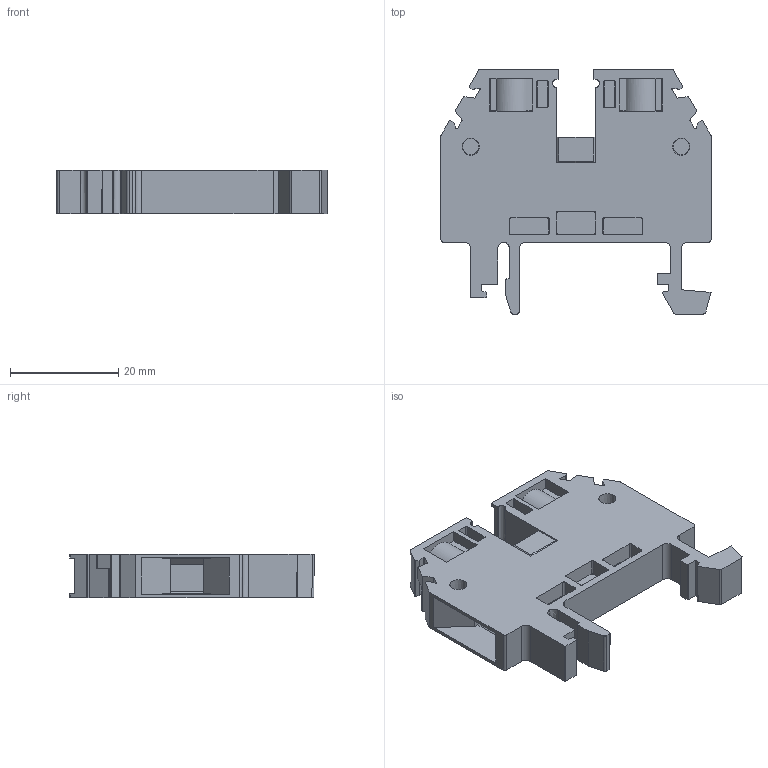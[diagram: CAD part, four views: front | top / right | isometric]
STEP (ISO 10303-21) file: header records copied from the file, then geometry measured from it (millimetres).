
FILE_DESCRIPTION(/* description */ ('Unknown'),/* implementation_level */ '2;1');
FILE_NAME(/* name */ 'RSA 6A',/* time_stamp */ '2021-03-04T10:34:07+01:00',/* author */ ('Unknown'),/* organization */ ('Unknown'),/* preprocessor_version */ 'ST-DEVELOPER v16.7',/* originating_system */ 'Solid Edge',/* authorisation */ 'Unknown');
FILE_SCHEMA (('AUTOMOTIVE_DESIGN {1 0 10303 214 3 1 1}'));
Length unit declared in the file: millimetre
Products named in the file (1): RSA 6A
Bounding box: 50 x 45.2 x 8 mm (x, y, z)
Volume: 9542.9 mm3; surface area: 7172.2 mm2
Topology: 1 solids, 1 shells, 406 faces, 1111 edges, 736 vertices
Faces by surface type: plane 243, cylinder 142, cone 14, torus 6, bspline 1
Full cylindrical faces by diameter (mm): 2.85 x1, 3.5 x2, 3.8 x2, 5.5 x2
Entity records: 15631 total; most frequent: CARTESIAN_POINT 2474, ORIENTED_EDGE 2152, DIRECTION 2113, EDGE_CURVE 1076, LINE 725, VECTOR 725, VERTEX_POINT 724, AXIS2_PLACEMENT_3D 694
